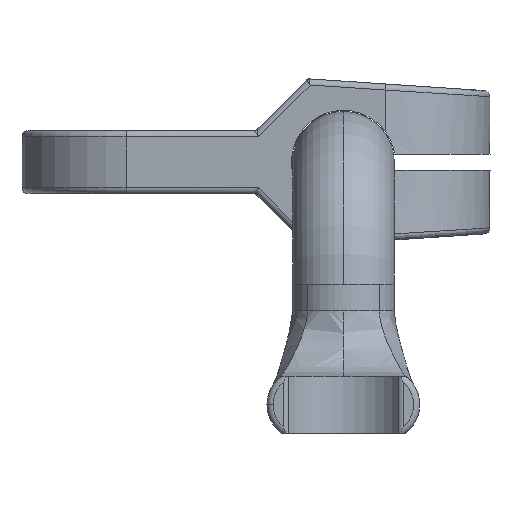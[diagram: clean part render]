
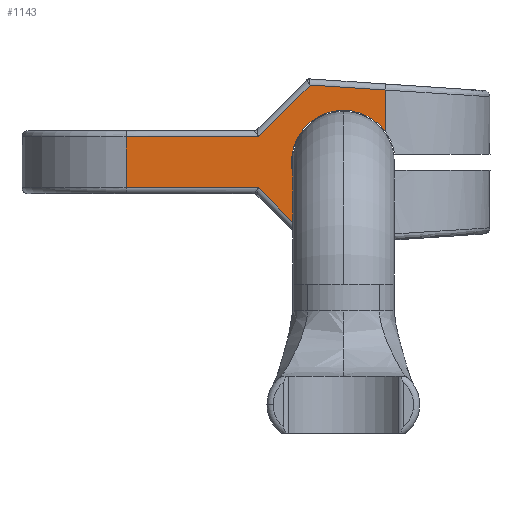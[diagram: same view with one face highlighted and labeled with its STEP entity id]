
A CAD part, front view. The second image highlights one B-rep face of the part: STEP entity #1143.
In plain terms, the highlighted planar face has unit normal (0, -1, 0) as drawn and (0, 0, -1) by its records, which use the part's own axes.
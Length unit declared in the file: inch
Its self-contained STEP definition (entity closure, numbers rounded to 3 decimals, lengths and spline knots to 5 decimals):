
#23=DIRECTION('',(0.707,0.707,0.));
#24=VECTOR('',#23,0.35943);
#25=CARTESIAN_POINT('',(-0.37916,-0.26658,
-0.585));
#26=LINE('',#25,#24);
#27=DIRECTION('',(-0.067,0.998,0.));
#28=VECTOR('',#27,0.37089);
#29=CARTESIAN_POINT('',(-0.35448,-0.63665,
-0.585));
#30=LINE('',#29,#28);
#31=CARTESIAN_POINT('',(0.,-0.43,-0.585));
#32=DIRECTION('',(0.,0.,1.));
#33=DIRECTION('',(-1.,0.,0.));
#34=AXIS2_PLACEMENT_3D('',#31,#32,#33);
#36=CARTESIAN_POINT('',(0.,-0.43,-0.585));
#37=DIRECTION('',(0.,0.,1.));
#38=DIRECTION('',(1.,0.,0.));
#39=AXIS2_PLACEMENT_3D('',#36,#37,#38);
#41=CARTESIAN_POINT('',(0.,-0.43,-0.585));
#42=DIRECTION('',(0.,0.,1.));
#43=DIRECTION('',(0.586,-0.81,0.));
#44=AXIS2_PLACEMENT_3D('',#41,#42,#43);
#46=DIRECTION('',(-0.067,-0.998,0.));
#47=VECTOR('',#46,0.37089);
#48=CARTESIAN_POINT('',(0.37916,-0.26658,
-0.585));
#49=LINE('',#48,#47);
#50=DIRECTION('',(0.707,-0.707,0.));
#51=VECTOR('',#50,0.35943);
#52=CARTESIAN_POINT('',(0.125,-0.01243,
-0.585));
#53=LINE('',#52,#51);
#54=DIRECTION('',(0.,-1.,0.));
#55=VECTOR('',#54,0.64908);
#56=CARTESIAN_POINT('',(-0.125,0.63665,-0.585));
#57=LINE('',#56,#55);
#90=DIRECTION('',(-1.,0.,0.));
#91=VECTOR('',#90,0.25);
#92=CARTESIAN_POINT('',(0.125,0.63665,-0.585));
#93=LINE('',#92,#91);
#126=DIRECTION('',(0.,1.,0.));
#127=VECTOR('',#126,0.64907);
#128=CARTESIAN_POINT('',(0.125,-0.01243,
-0.585));
#129=LINE('',#128,#127);
#396=CARTESIAN_POINT('',(-0.37916,-0.26658,
-0.585));
#418=DIRECTION('',(1.,0.,0.));
#419=VECTOR('',#418,0.20507);
#420=CARTESIAN_POINT('',(-0.35448,-0.63665,
-0.585));
#421=LINE('',#420,#419);
#571=DIRECTION('',(1.,0.,0.));
#572=VECTOR('',#571,0.20507);
#573=CARTESIAN_POINT('',(0.1494,-0.63665,-0.585));
#574=LINE('',#573,#572);
#819=CARTESIAN_POINT('',(0.37916,-0.26658,
-0.585));
#911=CARTESIAN_POINT('',(-0.125,-0.01243,
-0.585));
#939=VERTEX_POINT('',#819);
#947=VERTEX_POINT('',#911);
#967=CARTESIAN_POINT('',(-0.125,0.63665,-0.585));
#969=VERTEX_POINT('',#967);
#976=CARTESIAN_POINT('',(0.35448,-0.63665,
-0.585));
#977=VERTEX_POINT('',#976);
#986=CARTESIAN_POINT('',(-0.255,-0.43,-0.585));
#987=CARTESIAN_POINT('',(-0.1494,-0.63665,-0.585));
#988=VERTEX_POINT('',#986);
#989=VERTEX_POINT('',#987);
#1002=CARTESIAN_POINT('',(0.125,0.63665,-0.585));
#1003=VERTEX_POINT('',#1002);
#1014=CARTESIAN_POINT('',(0.255,-0.43,-0.585));
#1015=VERTEX_POINT('',#1014);
#1018=CARTESIAN_POINT('',(0.1494,-0.63665,-0.585));
#1019=VERTEX_POINT('',#1018);
#1030=VERTEX_POINT('',#396);
#1034=CARTESIAN_POINT('',(0.125,-0.01243,
-0.585));
#1035=VERTEX_POINT('',#1034);
#1055=CARTESIAN_POINT('',(-0.35448,-0.63665,
-0.585));
#1056=VERTEX_POINT('',#1055);
#1113=CARTESIAN_POINT('',(0.,0.,-0.585));
#1114=DIRECTION('',(0.,0.,1.));
#1115=DIRECTION('',(1.,0.,0.));
#1116=AXIS2_PLACEMENT_3D('',#1113,#1114,#1115);
#1117=PLANE('',#1116);
#1119=ORIENTED_EDGE('',*,*,#1118,.T.);
#1120=ORIENTED_EDGE('',*,*,#1103,.F.);
#1122=ORIENTED_EDGE('',*,*,#1121,.F.);
#1124=ORIENTED_EDGE('',*,*,#1123,.T.);
#1126=ORIENTED_EDGE('',*,*,#1125,.F.);
#1128=ORIENTED_EDGE('',*,*,#1127,.F.);
#1130=ORIENTED_EDGE('',*,*,#1129,.F.);
#1132=ORIENTED_EDGE('',*,*,#1131,.T.);
#1134=ORIENTED_EDGE('',*,*,#1133,.F.);
#1136=ORIENTED_EDGE('',*,*,#1135,.F.);
#1138=ORIENTED_EDGE('',*,*,#1137,.T.);
#1140=ORIENTED_EDGE('',*,*,#1139,.T.);
#1141=EDGE_LOOP('',(#1119,#1120,#1122,#1124,#1126,#1128,#1130,#1132,#1134,#1136,
#1138,#1140));
#1142=FACE_OUTER_BOUND('',#1141,.F.);
#35=CIRCLE('',#34,0.255);
#40=CIRCLE('',#39,0.255);
#45=CIRCLE('',#44,0.255);
#1103=EDGE_CURVE('',#1030,#947,#26,.T.);
#1118=EDGE_CURVE('',#969,#947,#57,.T.);
#1121=EDGE_CURVE('',#1056,#1030,#30,.T.);
#1123=EDGE_CURVE('',#1056,#989,#421,.T.);
#1125=EDGE_CURVE('',#988,#989,#35,.T.);
#1127=EDGE_CURVE('',#1015,#988,#40,.T.);
#1129=EDGE_CURVE('',#1019,#1015,#45,.T.);
#1131=EDGE_CURVE('',#1019,#977,#574,.T.);
#1133=EDGE_CURVE('',#939,#977,#49,.T.);
#1135=EDGE_CURVE('',#1035,#939,#53,.T.);
#1137=EDGE_CURVE('',#1035,#1003,#129,.T.);
#1139=EDGE_CURVE('',#1003,#969,#93,.T.);
#1143=ADVANCED_FACE('',(#1142),#1117,.F.);
